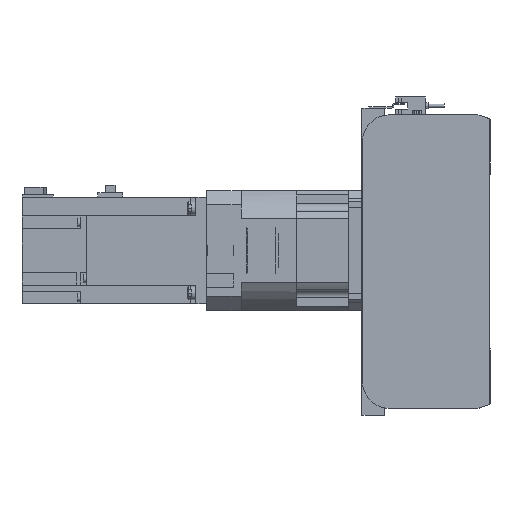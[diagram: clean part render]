
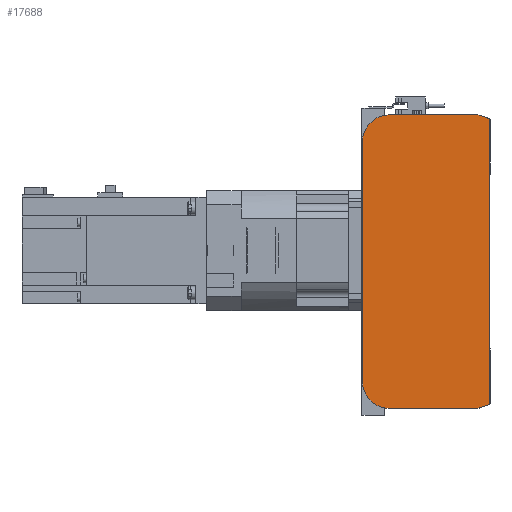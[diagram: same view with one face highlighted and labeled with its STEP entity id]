
A CAD part, left-side view. The second image highlights one B-rep face of the part: STEP entity #17688.
In plain terms, the highlighted planar face has unit normal (-1, 0, 0).
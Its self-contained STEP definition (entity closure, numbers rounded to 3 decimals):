
#1002=CIRCLE('',#19288,20.);
#1003=CIRCLE('',#19291,20.);
#4470=ORIENTED_EDGE('',*,*,#7688,.F.);
#4471=ORIENTED_EDGE('',*,*,#7730,.F.);
#4472=ORIENTED_EDGE('',*,*,#7728,.F.);
#4473=ORIENTED_EDGE('',*,*,#7726,.F.);
#4474=ORIENTED_EDGE('',*,*,#7715,.F.);
#4475=ORIENTED_EDGE('',*,*,#7706,.F.);
#4476=ORIENTED_EDGE('',*,*,#7702,.F.);
#4477=ORIENTED_EDGE('',*,*,#7699,.F.);
#7688=EDGE_CURVE('',#9641,#9642,#11227,.T.);
#7699=EDGE_CURVE('',#9642,#9649,#11238,.T.);
#7702=EDGE_CURVE('',#9649,#9651,#11241,.T.);
#7706=EDGE_CURVE('',#9651,#9652,#11245,.T.);
#7715=EDGE_CURVE('',#9652,#9658,#11254,.T.);
#7726=EDGE_CURVE('',#9658,#9665,#1002,.T.);
#7728=EDGE_CURVE('',#9665,#9666,#11266,.T.);
#7730=EDGE_CURVE('',#9666,#9641,#1003,.T.);
#9641=VERTEX_POINT('',#29114);
#9642=VERTEX_POINT('',#29116);
#9649=VERTEX_POINT('',#29135);
#9651=VERTEX_POINT('',#29141);
#9652=VERTEX_POINT('',#29147);
#9658=VERTEX_POINT('',#29163);
#9665=VERTEX_POINT('',#29182);
#9666=VERTEX_POINT('',#29186);
#11227=LINE('',#29115,#12796);
#11238=LINE('',#29134,#12807);
#11241=LINE('',#29140,#12810);
#11245=LINE('',#29146,#12814);
#11254=LINE('',#29162,#12823);
#11266=LINE('',#29185,#12835);
#12796=VECTOR('',#23407,1000.);
#12807=VECTOR('',#23420,1000.);
#12810=VECTOR('',#23425,1000.);
#12814=VECTOR('',#23431,1000.);
#12823=VECTOR('',#23442,1000.);
#12835=VECTOR('',#23460,1000.);
#14220=EDGE_LOOP('',(#4470,#4471,#4472,#4473,#4474,#4475,#4476,#4477));
#15798=FACE_BOUND('',#14220,.T.);
#16815=PLANE('',#19292);
#17688=ADVANCED_FACE('',(#15798),#16815,.F.);
#19288=AXIS2_PLACEMENT_3D('',#29181,#23455,#23456);
#19291=AXIS2_PLACEMENT_3D('',#29189,#23464,#23465);
#19292=AXIS2_PLACEMENT_3D('',#29190,#23466,#23467);
#23407=DIRECTION('',(0.,-1.,0.));
#23420=DIRECTION('',(0.,-0.945,-0.328));
#23425=DIRECTION('',(0.,0.,-1.));
#23431=DIRECTION('',(0.,0.945,-0.328));
#23442=DIRECTION('',(0.,1.,0.));
#23455=DIRECTION('',(1.,0.,0.));
#23456=DIRECTION('',(0.,0.,-1.));
#23460=DIRECTION('',(0.,0.,1.));
#23464=DIRECTION('',(1.,0.,0.));
#23465=DIRECTION('',(0.,0.,-1.));
#23466=DIRECTION('',(1.,0.,0.));
#23467=DIRECTION('',(0.,0.,-1.));
#29114=CARTESIAN_POINT('',(0.,75.5,110.));
#29115=CARTESIAN_POINT('',(0.,75.5,110.));
#29116=CARTESIAN_POINT('',(0.,9.,110.));
#29134=CARTESIAN_POINT('',(0.,9.,110.));
#29135=CARTESIAN_POINT('',(0.,0.5,107.05));
#29140=CARTESIAN_POINT('',(0.,0.5,107.05));
#29141=CARTESIAN_POINT('',(0.,0.5,-107.05));
#29146=CARTESIAN_POINT('',(0.,0.5,-107.05));
#29147=CARTESIAN_POINT('',(0.,9.,-110.));
#29162=CARTESIAN_POINT('',(0.,9.,-110.));
#29163=CARTESIAN_POINT('',(0.,75.5,-110.));
#29181=CARTESIAN_POINT('',(0.,75.5,-90.));
#29182=CARTESIAN_POINT('',(0.,95.5,-90.));
#29185=CARTESIAN_POINT('',(0.,95.5,-90.));
#29186=CARTESIAN_POINT('',(0.,95.5,90.));
#29189=CARTESIAN_POINT('',(0.,75.5,90.));
#29190=CARTESIAN_POINT('',(0.,75.5,-90.));
